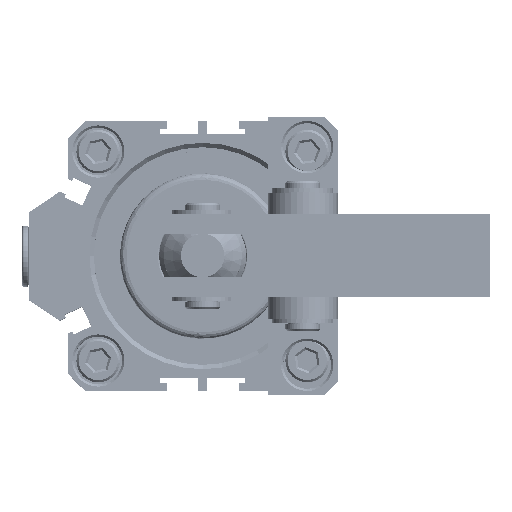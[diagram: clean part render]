
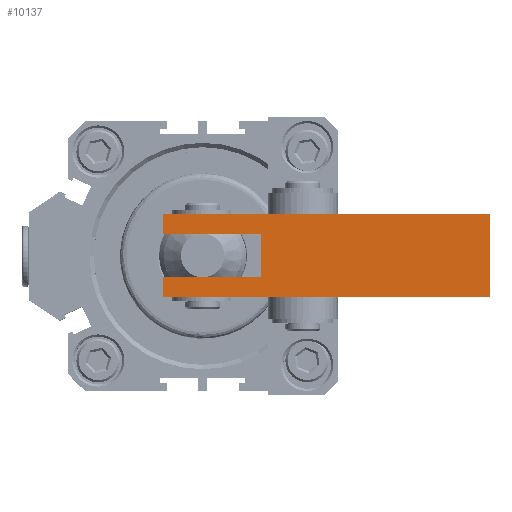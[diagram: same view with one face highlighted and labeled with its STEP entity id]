
A CAD part, top view. The second image highlights one B-rep face of the part: STEP entity #10137.
In plain terms, the highlighted planar face has unit normal (0, 0, 1).
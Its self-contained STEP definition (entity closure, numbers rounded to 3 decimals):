
#9177 = PLANE('',#9178);
#9178 = AXIS2_PLACEMENT_3D('',#9179,#9180,#9181);
#9179 = CARTESIAN_POINT('',(27.422,11.745,
    115.599));
#9180 = DIRECTION('',(0.,1.,-0.));
#9181 = DIRECTION('',(0.,0.,1.));
#9227 = PLANE('',#9228);
#9228 = AXIS2_PLACEMENT_3D('',#9229,#9230,#9231);
#9229 = CARTESIAN_POINT('',(4.922,16.245,
    115.599));
#9230 = DIRECTION('',(0.,-1.,0.));
#9231 = DIRECTION('',(0.,-0.,-1.));
#9298 = PLANE('',#9299);
#9299 = AXIS2_PLACEMENT_3D('',#9300,#9301,#9302);
#9300 = CARTESIAN_POINT('',(79.922,-2.755,
    115.599));
#9301 = DIRECTION('',(0.,1.,0.));
#9302 = DIRECTION('',(-1.,0.,0.));
#9463 = PLANE('',#9464);
#9464 = AXIS2_PLACEMENT_3D('',#9465,#9466,#9467);
#9465 = CARTESIAN_POINT('',(27.422,1.745,
    115.599));
#9466 = DIRECTION('',(0.,-1.,0.));
#9467 = DIRECTION('',(0.,-0.,-1.));
#9542 = VERTEX_POINT('',#9543);
#9543 = CARTESIAN_POINT('',(79.922,-2.755,
    115.599));
#9557 = PLANE('',#9558);
#9558 = AXIS2_PLACEMENT_3D('',#9559,#9560,#9561);
#9559 = CARTESIAN_POINT('',(79.922,16.245,
    115.599));
#9560 = DIRECTION('',(-1.,0.,0.));
#9561 = DIRECTION('',(0.,0.,1.));
#9569 = EDGE_CURVE('',#9542,#9570,#9572,.T.);
#9570 = VERTEX_POINT('',#9571);
#9571 = CARTESIAN_POINT('',(4.922,-2.755,
    115.599));
#9572 = SURFACE_CURVE('',#9573,(#9577,#9584),.PCURVE_S1.);
#9573 = LINE('',#9574,#9575);
#9574 = CARTESIAN_POINT('',(79.922,-2.755,
    115.599));
#9575 = VECTOR('',#9576,1.);
#9576 = DIRECTION('',(-1.,0.,-0.));
#9577 = PCURVE('',#9298,#9578);
#9578 = DEFINITIONAL_REPRESENTATION('',(#9579),#9583);
#9579 = LINE('',#9580,#9581);
#9580 = CARTESIAN_POINT('',(0.,0.));
#9581 = VECTOR('',#9582,1.);
#9582 = DIRECTION('',(1.,-0.));
#9583 = ( GEOMETRIC_REPRESENTATION_CONTEXT(2) 
PARAMETRIC_REPRESENTATION_CONTEXT() REPRESENTATION_CONTEXT('2D SPACE',''
  ) );
#9584 = PCURVE('',#9585,#9590);
#9585 = PLANE('',#9586);
#9586 = AXIS2_PLACEMENT_3D('',#9587,#9588,#9589);
#9587 = CARTESIAN_POINT('',(79.922,-2.755,
    115.599));
#9588 = DIRECTION('',(0.,0.,-1.));
#9589 = DIRECTION('',(-1.,0.,-0.));
#9590 = DEFINITIONAL_REPRESENTATION('',(#9591),#9595);
#9591 = LINE('',#9592,#9593);
#9592 = CARTESIAN_POINT('',(0.,0.));
#9593 = VECTOR('',#9594,1.);
#9594 = DIRECTION('',(1.,0.));
#9595 = ( GEOMETRIC_REPRESENTATION_CONTEXT(2) 
PARAMETRIC_REPRESENTATION_CONTEXT() REPRESENTATION_CONTEXT('2D SPACE',''
  ) );
#9613 = PLANE('',#9614);
#9614 = AXIS2_PLACEMENT_3D('',#9615,#9616,#9617);
#9615 = CARTESIAN_POINT('',(4.922,-2.755,
    115.599));
#9616 = DIRECTION('',(1.,0.,0.));
#9617 = DIRECTION('',(0.,0.,-1.));
#9684 = EDGE_CURVE('',#9570,#9685,#9687,.T.);
#9685 = VERTEX_POINT('',#9686);
#9686 = CARTESIAN_POINT('',(4.922,1.745,
    115.599));
#9687 = SURFACE_CURVE('',#9688,(#9692,#9699),.PCURVE_S1.);
#9688 = LINE('',#9689,#9690);
#9689 = CARTESIAN_POINT('',(4.922,-2.755,
    115.599));
#9690 = VECTOR('',#9691,1.);
#9691 = DIRECTION('',(0.,1.,0.));
#9692 = PCURVE('',#9613,#9693);
#9693 = DEFINITIONAL_REPRESENTATION('',(#9694),#9698);
#9694 = LINE('',#9695,#9696);
#9695 = CARTESIAN_POINT('',(0.,0.));
#9696 = VECTOR('',#9697,1.);
#9697 = DIRECTION('',(0.,1.));
#9698 = ( GEOMETRIC_REPRESENTATION_CONTEXT(2) 
PARAMETRIC_REPRESENTATION_CONTEXT() REPRESENTATION_CONTEXT('2D SPACE',''
  ) );
#9699 = PCURVE('',#9585,#9700);
#9700 = DEFINITIONAL_REPRESENTATION('',(#9701),#9705);
#9701 = LINE('',#9702,#9703);
#9702 = CARTESIAN_POINT('',(75.,0.));
#9703 = VECTOR('',#9704,1.);
#9704 = DIRECTION('',(0.,1.));
#9705 = ( GEOMETRIC_REPRESENTATION_CONTEXT(2) 
PARAMETRIC_REPRESENTATION_CONTEXT() REPRESENTATION_CONTEXT('2D SPACE',''
  ) );
#9755 = EDGE_CURVE('',#9685,#9756,#9758,.T.);
#9756 = VERTEX_POINT('',#9757);
#9757 = CARTESIAN_POINT('',(27.422,1.745,
    115.599));
#9758 = SURFACE_CURVE('',#9759,(#9763,#9770),.PCURVE_S1.);
#9759 = LINE('',#9760,#9761);
#9760 = CARTESIAN_POINT('',(79.922,1.745,
    115.599));
#9761 = VECTOR('',#9762,1.);
#9762 = DIRECTION('',(1.,-0.,0.));
#9763 = PCURVE('',#9463,#9764);
#9764 = DEFINITIONAL_REPRESENTATION('',(#9765),#9769);
#9765 = LINE('',#9766,#9767);
#9766 = CARTESIAN_POINT('',(0.,52.5));
#9767 = VECTOR('',#9768,1.);
#9768 = DIRECTION('',(0.,1.));
#9769 = ( GEOMETRIC_REPRESENTATION_CONTEXT(2) 
PARAMETRIC_REPRESENTATION_CONTEXT() REPRESENTATION_CONTEXT('2D SPACE',''
  ) );
#9770 = PCURVE('',#9585,#9771);
#9771 = DEFINITIONAL_REPRESENTATION('',(#9772),#9776);
#9772 = LINE('',#9773,#9774);
#9773 = CARTESIAN_POINT('',(0.,4.5));
#9774 = VECTOR('',#9775,1.);
#9775 = DIRECTION('',(-1.,0.));
#9776 = ( GEOMETRIC_REPRESENTATION_CONTEXT(2) 
PARAMETRIC_REPRESENTATION_CONTEXT() REPRESENTATION_CONTEXT('2D SPACE',''
  ) );
#9794 = PLANE('',#9795);
#9795 = AXIS2_PLACEMENT_3D('',#9796,#9797,#9798);
#9796 = CARTESIAN_POINT('',(27.422,6.745,
    115.599));
#9797 = DIRECTION('',(1.,0.,-0.));
#9798 = DIRECTION('',(-0.,0.,-1.));
#9835 = EDGE_CURVE('',#9756,#9836,#9838,.T.);
#9836 = VERTEX_POINT('',#9837);
#9837 = CARTESIAN_POINT('',(27.422,11.745,
    115.599));
#9838 = SURFACE_CURVE('',#9839,(#9843,#9850),.PCURVE_S1.);
#9839 = LINE('',#9840,#9841);
#9840 = CARTESIAN_POINT('',(27.422,-2.755,
    115.599));
#9841 = VECTOR('',#9842,1.);
#9842 = DIRECTION('',(0.,1.,0.));
#9843 = PCURVE('',#9794,#9844);
#9844 = DEFINITIONAL_REPRESENTATION('',(#9845),#9849);
#9845 = LINE('',#9846,#9847);
#9846 = CARTESIAN_POINT('',(-0.,-9.5));
#9847 = VECTOR('',#9848,1.);
#9848 = DIRECTION('',(0.,1.));
#9849 = ( GEOMETRIC_REPRESENTATION_CONTEXT(2) 
PARAMETRIC_REPRESENTATION_CONTEXT() REPRESENTATION_CONTEXT('2D SPACE',''
  ) );
#9850 = PCURVE('',#9585,#9851);
#9851 = DEFINITIONAL_REPRESENTATION('',(#9852),#9856);
#9852 = LINE('',#9853,#9854);
#9853 = CARTESIAN_POINT('',(52.5,0.));
#9854 = VECTOR('',#9855,1.);
#9855 = DIRECTION('',(0.,1.));
#9856 = ( GEOMETRIC_REPRESENTATION_CONTEXT(2) 
PARAMETRIC_REPRESENTATION_CONTEXT() REPRESENTATION_CONTEXT('2D SPACE',''
  ) );
#9906 = EDGE_CURVE('',#9836,#9907,#9909,.T.);
#9907 = VERTEX_POINT('',#9908);
#9908 = CARTESIAN_POINT('',(4.922,11.745,
    115.599));
#9909 = SURFACE_CURVE('',#9910,(#9914,#9921),.PCURVE_S1.);
#9910 = LINE('',#9911,#9912);
#9911 = CARTESIAN_POINT('',(79.922,11.745,
    115.599));
#9912 = VECTOR('',#9913,1.);
#9913 = DIRECTION('',(-1.,0.,-0.));
#9914 = PCURVE('',#9177,#9915);
#9915 = DEFINITIONAL_REPRESENTATION('',(#9916),#9920);
#9916 = LINE('',#9917,#9918);
#9917 = CARTESIAN_POINT('',(0.,52.5));
#9918 = VECTOR('',#9919,1.);
#9919 = DIRECTION('',(0.,-1.));
#9920 = ( GEOMETRIC_REPRESENTATION_CONTEXT(2) 
PARAMETRIC_REPRESENTATION_CONTEXT() REPRESENTATION_CONTEXT('2D SPACE',''
  ) );
#9921 = PCURVE('',#9585,#9922);
#9922 = DEFINITIONAL_REPRESENTATION('',(#9923),#9927);
#9923 = LINE('',#9924,#9925);
#9924 = CARTESIAN_POINT('',(0.,14.5));
#9925 = VECTOR('',#9926,1.);
#9926 = DIRECTION('',(1.,0.));
#9927 = ( GEOMETRIC_REPRESENTATION_CONTEXT(2) 
PARAMETRIC_REPRESENTATION_CONTEXT() REPRESENTATION_CONTEXT('2D SPACE',''
  ) );
#9945 = PLANE('',#9946);
#9946 = AXIS2_PLACEMENT_3D('',#9947,#9948,#9949);
#9947 = CARTESIAN_POINT('',(4.922,11.745,
    115.599));
#9948 = DIRECTION('',(1.,0.,0.));
#9949 = DIRECTION('',(0.,0.,-1.));
#10073 = VERTEX_POINT('',#10074);
#10074 = CARTESIAN_POINT('',(79.922,16.245,
    115.599));
#10095 = EDGE_CURVE('',#10073,#9542,#10096,.T.);
#10096 = SURFACE_CURVE('',#10097,(#10101,#10108),.PCURVE_S1.);
#10097 = LINE('',#10098,#10099);
#10098 = CARTESIAN_POINT('',(79.922,-2.755,
    115.599));
#10099 = VECTOR('',#10100,1.);
#10100 = DIRECTION('',(-0.,-1.,-0.));
#10101 = PCURVE('',#9557,#10102);
#10102 = DEFINITIONAL_REPRESENTATION('',(#10103),#10107);
#10103 = LINE('',#10104,#10105);
#10104 = CARTESIAN_POINT('',(0.,-19.));
#10105 = VECTOR('',#10106,1.);
#10106 = DIRECTION('',(0.,-1.));
#10107 = ( GEOMETRIC_REPRESENTATION_CONTEXT(2) 
PARAMETRIC_REPRESENTATION_CONTEXT() REPRESENTATION_CONTEXT('2D SPACE',''
  ) );
#10108 = PCURVE('',#9585,#10109);
#10109 = DEFINITIONAL_REPRESENTATION('',(#10110),#10114);
#10110 = LINE('',#10111,#10112);
#10111 = CARTESIAN_POINT('',(0.,0.));
#10112 = VECTOR('',#10113,1.);
#10113 = DIRECTION('',(0.,-1.));
#10114 = ( GEOMETRIC_REPRESENTATION_CONTEXT(2) 
PARAMETRIC_REPRESENTATION_CONTEXT() REPRESENTATION_CONTEXT('2D SPACE',''
  ) );
#10137 = ADVANCED_FACE('',(#10138),#9585,.F.);
#10138 = FACE_BOUND('',#10139,.T.);
#10139 = EDGE_LOOP('',(#10140,#10163,#10184,#10185,#10186,#10187,#10188,
    #10189));
#10140 = ORIENTED_EDGE('',*,*,#10141,.T.);
#10141 = EDGE_CURVE('',#10073,#10142,#10144,.T.);
#10142 = VERTEX_POINT('',#10143);
#10143 = CARTESIAN_POINT('',(4.922,16.245,
    115.599));
#10144 = SURFACE_CURVE('',#10145,(#10149,#10156),.PCURVE_S1.);
#10145 = LINE('',#10146,#10147);
#10146 = CARTESIAN_POINT('',(4.922,16.245,
    115.599));
#10147 = VECTOR('',#10148,1.);
#10148 = DIRECTION('',(-1.,-0.,-0.));
#10149 = PCURVE('',#9585,#10150);
#10150 = DEFINITIONAL_REPRESENTATION('',(#10151),#10155);
#10151 = LINE('',#10152,#10153);
#10152 = CARTESIAN_POINT('',(75.,19.));
#10153 = VECTOR('',#10154,1.);
#10154 = DIRECTION('',(1.,0.));
#10155 = ( GEOMETRIC_REPRESENTATION_CONTEXT(2) 
PARAMETRIC_REPRESENTATION_CONTEXT() REPRESENTATION_CONTEXT('2D SPACE',''
  ) );
#10156 = PCURVE('',#9227,#10157);
#10157 = DEFINITIONAL_REPRESENTATION('',(#10158),#10162);
#10158 = LINE('',#10159,#10160);
#10159 = CARTESIAN_POINT('',(0.,0.));
#10160 = VECTOR('',#10161,1.);
#10161 = DIRECTION('',(0.,-1.));
#10162 = ( GEOMETRIC_REPRESENTATION_CONTEXT(2) 
PARAMETRIC_REPRESENTATION_CONTEXT() REPRESENTATION_CONTEXT('2D SPACE',''
  ) );
#10163 = ORIENTED_EDGE('',*,*,#10164,.T.);
#10164 = EDGE_CURVE('',#10142,#9907,#10165,.T.);
#10165 = SURFACE_CURVE('',#10166,(#10170,#10177),.PCURVE_S1.);
#10166 = LINE('',#10167,#10168);
#10167 = CARTESIAN_POINT('',(4.922,11.745,
    115.599));
#10168 = VECTOR('',#10169,1.);
#10169 = DIRECTION('',(0.,-1.,-0.));
#10170 = PCURVE('',#9585,#10171);
#10171 = DEFINITIONAL_REPRESENTATION('',(#10172),#10176);
#10172 = LINE('',#10173,#10174);
#10173 = CARTESIAN_POINT('',(75.,14.5));
#10174 = VECTOR('',#10175,1.);
#10175 = DIRECTION('',(-0.,-1.));
#10176 = ( GEOMETRIC_REPRESENTATION_CONTEXT(2) 
PARAMETRIC_REPRESENTATION_CONTEXT() REPRESENTATION_CONTEXT('2D SPACE',''
  ) );
#10177 = PCURVE('',#9945,#10178);
#10178 = DEFINITIONAL_REPRESENTATION('',(#10179),#10183);
#10179 = LINE('',#10180,#10181);
#10180 = CARTESIAN_POINT('',(0.,0.));
#10181 = VECTOR('',#10182,1.);
#10182 = DIRECTION('',(0.,-1.));
#10183 = ( GEOMETRIC_REPRESENTATION_CONTEXT(2) 
PARAMETRIC_REPRESENTATION_CONTEXT() REPRESENTATION_CONTEXT('2D SPACE',''
  ) );
#10184 = ORIENTED_EDGE('',*,*,#9906,.F.);
#10185 = ORIENTED_EDGE('',*,*,#9835,.F.);
#10186 = ORIENTED_EDGE('',*,*,#9755,.F.);
#10187 = ORIENTED_EDGE('',*,*,#9684,.F.);
#10188 = ORIENTED_EDGE('',*,*,#9569,.F.);
#10189 = ORIENTED_EDGE('',*,*,#10095,.F.);
